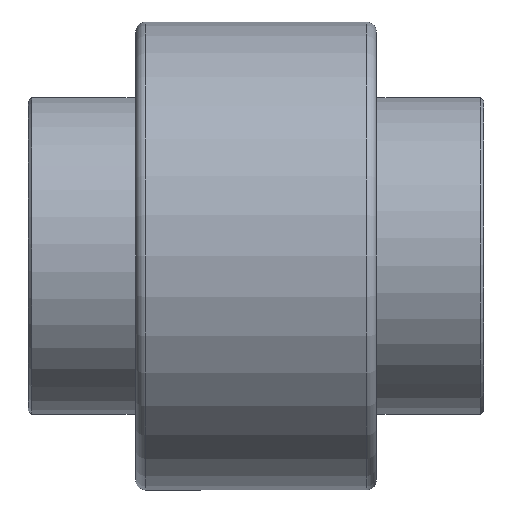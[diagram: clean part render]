
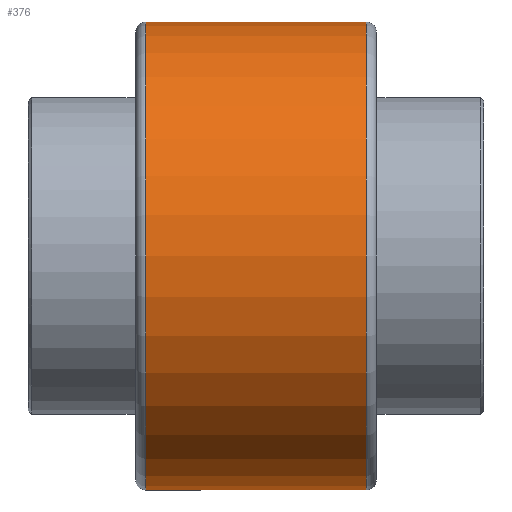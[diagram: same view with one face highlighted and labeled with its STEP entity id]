
A CAD part, front view. The second image highlights one B-rep face of the part: STEP entity #376.
In plain terms, the highlighted cylindrical face has radius 70 mm (diameter 140 mm), a full revolution.
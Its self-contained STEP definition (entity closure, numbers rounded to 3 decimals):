
#54=CYLINDRICAL_SURFACE('',#425,70.);
#71=FACE_BOUND('',#147,.T.);
#101=FACE_OUTER_BOUND('',#146,.T.);
#146=EDGE_LOOP('',(#312));
#147=EDGE_LOOP('',(#313));
#197=CIRCLE('',#424,70.);
#198=CIRCLE('',#426,70.);
#231=VERTEX_POINT('',#652);
#232=VERTEX_POINT('',#655);
#265=EDGE_CURVE('',#231,#231,#197,.T.);
#266=EDGE_CURVE('',#232,#232,#198,.T.);
#312=ORIENTED_EDGE('',*,*,#265,.T.);
#313=ORIENTED_EDGE('',*,*,#266,.F.);
#376=ADVANCED_FACE('',(#101,#71),#54,.T.);
#424=AXIS2_PLACEMENT_3D('',#653,#521,#522);
#425=AXIS2_PLACEMENT_3D('',#654,#523,#524);
#426=AXIS2_PLACEMENT_3D('',#656,#525,#526);
#521=DIRECTION('center_axis',(-1.,0.,0.));
#522=DIRECTION('ref_axis',(0.,0.,1.));
#523=DIRECTION('center_axis',(-1.,0.,0.));
#524=DIRECTION('ref_axis',(0.,-1.,0.));
#525=DIRECTION('center_axis',(-1.,0.,0.));
#526=DIRECTION('ref_axis',(0.,0.,1.));
#652=CARTESIAN_POINT('',(54.447,3.453,0.));
#653=CARTESIAN_POINT('Origin',(54.447,73.453,0.));
#654=CARTESIAN_POINT('Origin',(21.447,73.453,0.));
#655=CARTESIAN_POINT('',(-11.553,3.453,0.));
#656=CARTESIAN_POINT('Origin',(-11.553,73.453,0.));
